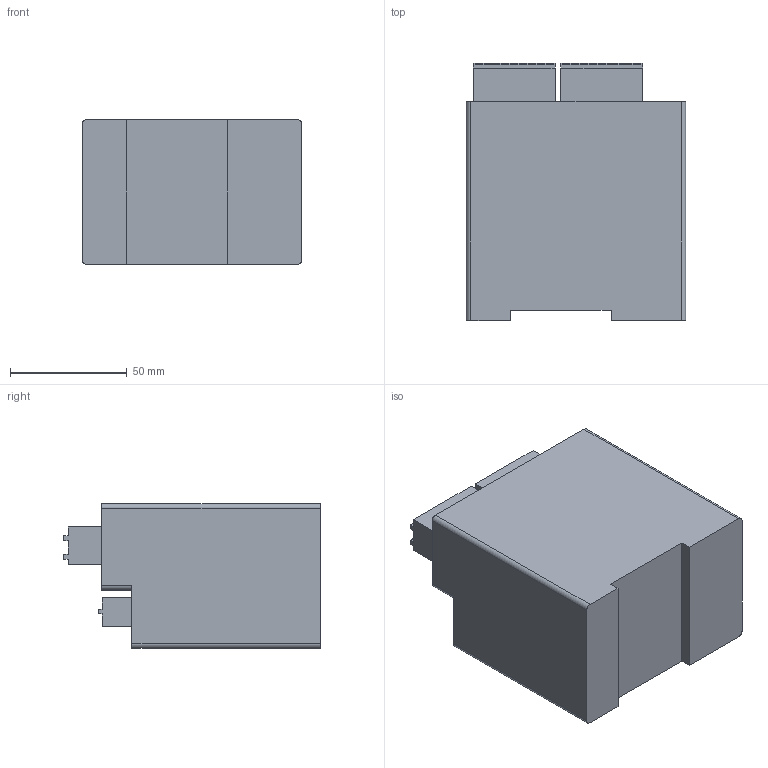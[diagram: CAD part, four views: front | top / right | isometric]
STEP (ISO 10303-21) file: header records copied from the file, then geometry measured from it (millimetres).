
FILE_DESCRIPTION((''),'2;1');
FILE_NAME('ASM0002_ASM_9_ASM','2025-03-31T',('Administrator'),(''),'PRO/ENGINEER BY PARAMETRIC TECHNOLOGY CORPORATION, 2015240','PRO/ENGINEER BY PARAMETRIC TECHNOLOGY CORPORATION, 2015240','');
FILE_SCHEMA(('CONFIG_CONTROL_DESIGN'));
Products named in the file (15): PRT0001_18; PRT0001; PRT0002; PRT0003; PRT0004; ASM0002_ASM; ASM0001_ASM; 03_2; AMP_RJ45_MODULAR_JACK_HOUSING_1; AMP_RJ45_MODULAR_JACK_PIN_1; AMP_RJ45_MODULAR_JACK_SOLDER_PI; AMP_RJ45_MODULAR_JACK_SHIELD_2; ASM0001_ASM_1_ASM; PRT0005; ASM0002_ASM_9_ASM
Assembly tree (43 placements, depth 4):
  ASM0002_ASM_9_ASM
    PRT0001_18
    ASM0001_ASM
      ASM0002_ASM
        PRT0001
        PRT0002  x8
        PRT0003  x8
        PRT0004
    03_2  x2
    ASM0001_ASM_1_ASM
      AMP_RJ45_MODULAR_JACK_HOUSING_1
      AMP_RJ45_MODULAR_JACK_PIN_1  x8
      AMP_RJ45_MODULAR_JACK_SOLDER_PI  x8
      AMP_RJ45_MODULAR_JACK_SHIELD_2
    PRT0005
Bounding box: 94 x 110 x 62 mm (x, y, z)
Volume: 514306.1 mm3; surface area: 66166.2 mm2
Topology: 40 solids, 40 shells, 7240 faces, 20477 edges, 13636 vertices
Faces by surface type: plane 6240, cylinder 894, bspline 76, sphere 22, torus 8
Entity records: 217583 total; most frequent: CARTESIAN_POINT 43180, ORIENTED_EDGE 37714, DIRECTION 33753, EDGE_CURVE 18857, VECTOR 16775, LINE 16775, VERTEX_POINT 12556, AXIS2_PLACEMENT_3D 8489
